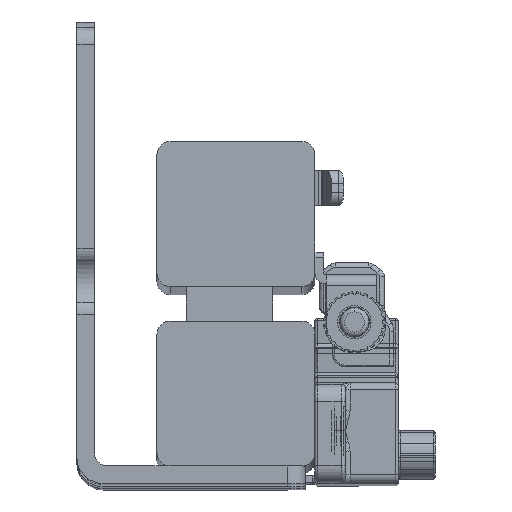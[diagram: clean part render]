
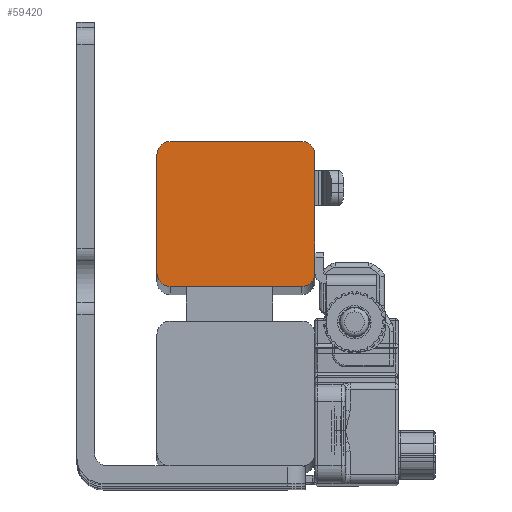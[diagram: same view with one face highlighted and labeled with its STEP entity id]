
A CAD part, top view. The second image highlights one B-rep face of the part: STEP entity #59420.
In plain terms, the highlighted planar face has unit normal (0, 0, 1).
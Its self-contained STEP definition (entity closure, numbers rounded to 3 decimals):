
#139 = CIRCLE ( 'NONE', #15130, 1.5 ) ;
#566 = VERTEX_POINT ( 'NONE', #5948 ) ;
#5050 = CARTESIAN_POINT ( 'NONE',  ( -532.621, 334.83, 537.78 ) ) ;
#5088 = DIRECTION ( 'NONE',  ( 1., 0., 0. ) ) ;
#5882 = CIRCLE ( 'NONE', #34338, 1.5 ) ;
#5885 = CARTESIAN_POINT ( 'NONE',  ( -534.121, 334.83, 537.78 ) ) ;
#5948 = CARTESIAN_POINT ( 'NONE',  ( -534.121, 321.33, 537.78 ) ) ;
#7362 = VERTEX_POINT ( 'NONE', #70157 ) ;
#9813 = CIRCLE ( 'NONE', #62282, 1.5 ) ;
#11724 = ORIENTED_EDGE ( 'NONE', *, *, #73133, .F. ) ;
#14705 = LINE ( 'NONE', #23104, #25127 ) ;
#15130 = AXIS2_PLACEMENT_3D ( 'NONE', #36802, #29755, #81439 ) ;
#15552 = EDGE_CURVE ( 'NONE', #26814, #7362, #85922, .T. ) ;
#15607 = AXIS2_PLACEMENT_3D ( 'NONE', #34739, #63884, #40857 ) ;
#16139 = ORIENTED_EDGE ( 'NONE', *, *, #88138, .F. ) ;
#17169 = VERTEX_POINT ( 'NONE', #41612 ) ;
#17785 = DIRECTION ( 'NONE',  ( 0., 1., 0. ) ) ;
#20130 = EDGE_CURVE ( 'NONE', #566, #73441, #24827, .T. ) ;
#20673 = PLANE ( 'NONE',  #15607 ) ;
#23104 = CARTESIAN_POINT ( 'NONE',  ( -516.121, 336.33, 537.78 ) ) ;
#24775 = DIRECTION ( 'NONE',  ( 1., 0., 0. ) ) ;
#24827 = LINE ( 'NONE', #82184, #64008 ) ;
#25127 = VECTOR ( 'NONE', #65870, 1000. ) ;
#25163 = EDGE_CURVE ( 'NONE', #39523, #26814, #80952, .T. ) ;
#26261 = ORIENTED_EDGE ( 'NONE', *, *, #81066, .F. ) ;
#26814 = VERTEX_POINT ( 'NONE', #35958 ) ;
#27533 = VERTEX_POINT ( 'NONE', #53607 ) ;
#29029 = CARTESIAN_POINT ( 'NONE',  ( -516.121, 336.33, 537.78 ) ) ;
#29755 = DIRECTION ( 'NONE',  ( 0., 0., -1. ) ) ;
#34338 = AXIS2_PLACEMENT_3D ( 'NONE', #49201, #35115, #5088 ) ;
#34738 = CARTESIAN_POINT ( 'NONE',  ( -517.621, 336.33, 537.78 ) ) ;
#34739 = CARTESIAN_POINT ( 'NONE',  ( -517.611, 334.84, 537.78 ) ) ;
#35115 = DIRECTION ( 'NONE',  ( 0., 0., -1. ) ) ;
#35309 = LINE ( 'NONE', #64433, #75467 ) ;
#35958 = CARTESIAN_POINT ( 'NONE',  ( -516.121, 334.83, 537.78 ) ) ;
#36635 = VECTOR ( 'NONE', #57709, 1000. ) ;
#36802 = CARTESIAN_POINT ( 'NONE',  ( -517.621, 321.33, 537.78 ) ) ;
#39523 = VERTEX_POINT ( 'NONE', #34738 ) ;
#40857 = DIRECTION ( 'NONE',  ( -1., 0., 0. ) ) ;
#41612 = CARTESIAN_POINT ( 'NONE',  ( -532.621, 336.33, 537.78 ) ) ;
#44965 = EDGE_CURVE ( 'NONE', #17169, #39523, #14705, .T. ) ;
#47149 = ORIENTED_EDGE ( 'NONE', *, *, #15552, .F. ) ;
#47705 = ORIENTED_EDGE ( 'NONE', *, *, #25163, .F. ) ;
#48346 = FACE_OUTER_BOUND ( 'NONE', #80180, .T. ) ;
#49201 = CARTESIAN_POINT ( 'NONE',  ( -532.621, 321.33, 537.78 ) ) ;
#53607 = CARTESIAN_POINT ( 'NONE',  ( -532.621, 319.83, 537.78 ) ) ;
#54325 = ORIENTED_EDGE ( 'NONE', *, *, #78659, .F. ) ;
#57709 = DIRECTION ( 'NONE',  ( 0., -1., 0. ) ) ;
#59420 = ADVANCED_FACE ( 'NONE', ( #48346 ), #20673, .T. ) ;
#60492 = DIRECTION ( 'NONE',  ( 0., 0., -1. ) ) ;
#61358 = CARTESIAN_POINT ( 'NONE',  ( -517.621, 334.83, 537.78 ) ) ;
#62282 = AXIS2_PLACEMENT_3D ( 'NONE', #5050, #60492, #24775 ) ;
#63134 = ORIENTED_EDGE ( 'NONE', *, *, #20130, .F. ) ;
#63884 = DIRECTION ( 'NONE',  ( 0., 0., 1. ) ) ;
#64008 = VECTOR ( 'NONE', #17785, 1000. ) ;
#64433 = CARTESIAN_POINT ( 'NONE',  ( -532.621, 319.83, 537.78 ) ) ;
#65870 = DIRECTION ( 'NONE',  ( 1., 0., 0. ) ) ;
#67938 = DIRECTION ( 'NONE',  ( 0., 0., -1. ) ) ;
#68913 = AXIS2_PLACEMENT_3D ( 'NONE', #61358, #67938, #76850 ) ;
#70157 = CARTESIAN_POINT ( 'NONE',  ( -516.121, 321.33, 537.78 ) ) ;
#72456 = DIRECTION ( 'NONE',  ( -1., 0., 0. ) ) ;
#73133 = EDGE_CURVE ( 'NONE', #27533, #566, #5882, .T. ) ;
#73441 = VERTEX_POINT ( 'NONE', #5885 ) ;
#75467 = VECTOR ( 'NONE', #72456, 1000. ) ;
#76850 = DIRECTION ( 'NONE',  ( -1., 0., 0. ) ) ;
#78659 = EDGE_CURVE ( 'NONE', #7362, #91368, #139, .T. ) ;
#80180 = EDGE_LOOP ( 'NONE', ( #47149, #47705, #92517, #16139, #63134, #11724, #26261, #54325 ) ) ;
#80952 = CIRCLE ( 'NONE', #68913, 1.5 ) ;
#81066 = EDGE_CURVE ( 'NONE', #91368, #27533, #35309, .T. ) ;
#81439 = DIRECTION ( 'NONE',  ( 1., 0., 0. ) ) ;
#82184 = CARTESIAN_POINT ( 'NONE',  ( -534.121, 334.83, 537.78 ) ) ;
#85922 = LINE ( 'NONE', #29029, #36635 ) ;
#88138 = EDGE_CURVE ( 'NONE', #73441, #17169, #9813, .T. ) ;
#91368 = VERTEX_POINT ( 'NONE', #91669 ) ;
#91669 = CARTESIAN_POINT ( 'NONE',  ( -517.621, 319.83, 537.78 ) ) ;
#92517 = ORIENTED_EDGE ( 'NONE', *, *, #44965, .F. ) ;
